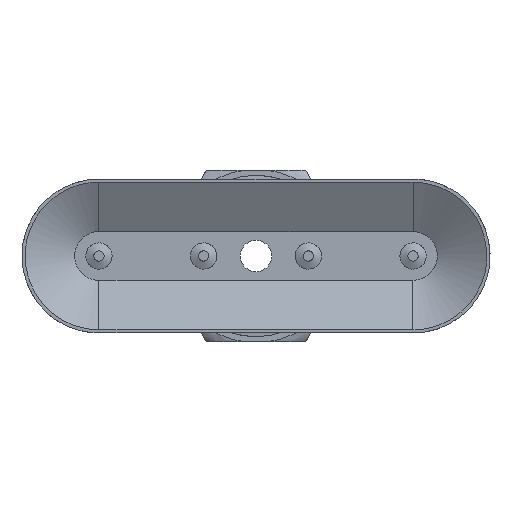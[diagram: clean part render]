
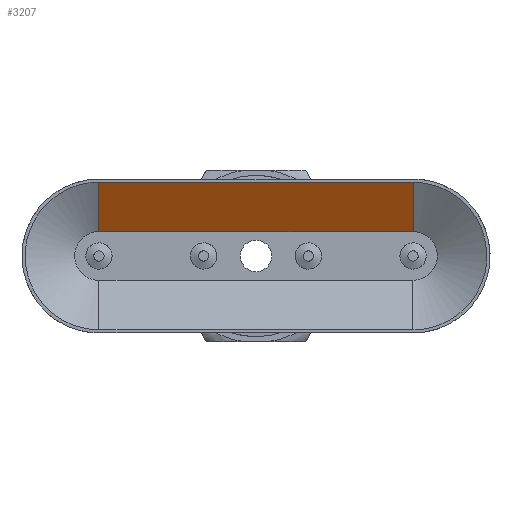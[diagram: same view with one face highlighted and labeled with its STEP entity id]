
A CAD part, front view. The second image highlights one B-rep face of the part: STEP entity #3207.
In plain terms, the highlighted planar face has unit normal (0, -0.854, -0.521) as drawn and (0, 0.521, -0.854) by its records, which use the part's own axes.
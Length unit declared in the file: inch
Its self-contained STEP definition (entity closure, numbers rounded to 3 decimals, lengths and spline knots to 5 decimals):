
#3 = CARTESIAN_POINT ( 'NONE',  ( 6.22941, 2.37981, -1.47006 ) ) ;
#168 = DIRECTION ( 'NONE',  ( 0., 0.521, -0.854 ) ) ;
#368 = VERTEX_POINT ( 'NONE', #3330 ) ;
#469 = CARTESIAN_POINT ( 'NONE',  ( 5.61831, 2.44399, -1.43089 ) ) ;
#794 = VERTEX_POINT ( 'NONE', #2754 ) ;
#798 = LINE ( 'NONE', #469, #2776 ) ;
#883 = CARTESIAN_POINT ( 'NONE',  ( 4.94597, 2.2418, -1.5543 ) ) ;
#1081 = CARTESIAN_POINT ( 'NONE',  ( 6.22937, 2.31563, -1.50924 ) ) ;
#1505 = DIRECTION ( 'NONE',  ( -1., 0., 0. ) ) ;
#1554 = ORIENTED_EDGE ( 'NONE', *, *, #4191, .T. ) ;
#1806 = ORIENTED_EDGE ( 'NONE', *, *, #3950, .T. ) ;
#1960 = PLANE ( 'NONE',  #4210 ) ;
#2006 = FACE_OUTER_BOUND ( 'NONE', #2113, .T. ) ;
#2113 = EDGE_LOOP ( 'NONE', ( #1806, #3625, #3256, #1554 ) ) ;
#2156 = VERTEX_POINT ( 'NONE', #2680 ) ;
#2233 = CARTESIAN_POINT ( 'NONE',  ( 6.22932, 2.25145, -1.54842 ) ) ;
#2323 = VECTOR ( 'NONE', #1505, 39.37008 ) ;
#2600 = B_SPLINE_CURVE_WITH_KNOTS ( 'NONE', 3,
 ( #3964, #3, #1081, #3689 ),
 .UNSPECIFIED., .F., .F.,
 ( 4, 4 ),
 ( 0., 0.99997 ),
 .UNSPECIFIED. ) ;
#2608 = B_SPLINE_CURVE_WITH_KNOTS ( 'NONE', 3,
 ( #4515, #3778, #3004, #4449 ),
 .UNSPECIFIED., .F., .F.,
 ( 4, 4 ),
 ( 0.00006, 1. ),
 .UNSPECIFIED. ) ;
#2680 = CARTESIAN_POINT ( 'NONE',  ( 5.00709, 2.25145, -1.54842 ) ) ;
#2754 = CARTESIAN_POINT ( 'NONE',  ( 6.22946, 2.44399, -1.43089 ) ) ;
#2776 = VECTOR ( 'NONE', #4110, 39.37008 ) ;
#3004 = CARTESIAN_POINT ( 'NONE',  ( 5.00709, 2.37981, -1.47006 ) ) ;
#3029 = CARTESIAN_POINT ( 'NONE',  ( 4.94597, 2.25145, -1.54841 ) ) ;
#3207 = ADVANCED_FACE ( 'NONE', ( #2006 ), #1960, .T. ) ;
#3256 = ORIENTED_EDGE ( 'NONE', *, *, #4554, .T. ) ;
#3330 = CARTESIAN_POINT ( 'NONE',  ( 5.00709, 2.44399, -1.43089 ) ) ;
#3625 = ORIENTED_EDGE ( 'NONE', *, *, #4622, .T. ) ;
#3689 = CARTESIAN_POINT ( 'NONE',  ( 6.22932, 2.25145, -1.54842 ) ) ;
#3778 = CARTESIAN_POINT ( 'NONE',  ( 5.00709, 2.31563, -1.50924 ) ) ;
#3950 = EDGE_CURVE ( 'NONE', #794, #3962, #2600, .T. ) ;
#3962 = VERTEX_POINT ( 'NONE', #2233 ) ;
#3964 = CARTESIAN_POINT ( 'NONE',  ( 6.22946, 2.44399, -1.43089 ) ) ;
#4057 = LINE ( 'NONE', #3029, #2323 ) ;
#4110 = DIRECTION ( 'NONE',  ( 1., 0., 0. ) ) ;
#4153 = DIRECTION ( 'NONE',  ( -1., 0., 0. ) ) ;
#4191 = EDGE_CURVE ( 'NONE', #368, #794, #798, .T. ) ;
#4210 = AXIS2_PLACEMENT_3D ( 'NONE', #883, #168, #4153 ) ;
#4449 = CARTESIAN_POINT ( 'NONE',  ( 5.00709, 2.44399, -1.43089 ) ) ;
#4515 = CARTESIAN_POINT ( 'NONE',  ( 5.00709, 2.25145, -1.54842 ) ) ;
#4554 = EDGE_CURVE ( 'NONE', #2156, #368, #2608, .T. ) ;
#4622 = EDGE_CURVE ( 'NONE', #3962, #2156, #4057, .T. ) ;
